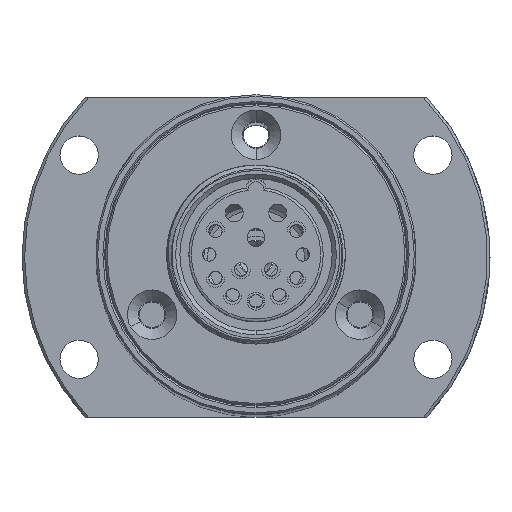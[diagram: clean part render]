
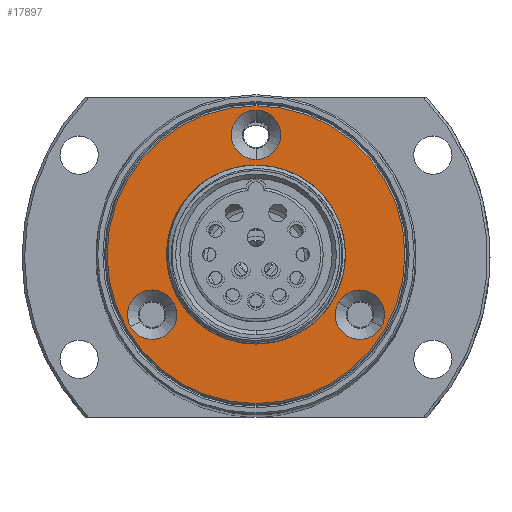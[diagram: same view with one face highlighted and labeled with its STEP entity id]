
A CAD part, top view. The second image highlights one B-rep face of the part: STEP entity #17897.
In plain terms, the highlighted planar face has unit normal (0, 0, 1).
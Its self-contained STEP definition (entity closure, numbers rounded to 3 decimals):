
#59 = CARTESIAN_POINT ( 'NONE',  ( 0., -10.5, 154. ) ) ;
#250 = VERTEX_POINT ( 'NONE', #19405 ) ;
#394 = DIRECTION ( 'NONE',  ( 0., 0., 1. ) ) ;
#397 = CIRCLE ( 'NONE', #4097, 10.5 ) ;
#550 = EDGE_CURVE ( 'NONE', #11865, #5777, #11360, .T. ) ;
#753 = CIRCLE ( 'NONE', #3111, 2.9 ) ;
#971 = EDGE_LOOP ( 'NONE', ( #17719, #9461 ) ) ;
#990 = CARTESIAN_POINT ( 'NONE',  ( 0., 0., 154. ) ) ;
#1075 = DIRECTION ( 'NONE',  ( 0., -1., 0. ) ) ;
#1258 = CIRCLE ( 'NONE', #4970, 2.9 ) ;
#1330 = VERTEX_POINT ( 'NONE', #59 ) ;
#1877 = DIRECTION ( 'NONE',  ( 0., 0., 1. ) ) ;
#1965 = VERTEX_POINT ( 'NONE', #16304 ) ;
#2134 = ORIENTED_EDGE ( 'NONE', *, *, #14242, .F. ) ;
#2211 = AXIS2_PLACEMENT_3D ( 'NONE', #2530, #8980, #18662 ) ;
#2379 = DIRECTION ( 'NONE',  ( 0., -1., 0. ) ) ;
#2412 = ORIENTED_EDGE ( 'NONE', *, *, #6376, .F. ) ;
#2449 = VERTEX_POINT ( 'NONE', #8069 ) ;
#2530 = CARTESIAN_POINT ( 'NONE',  ( 12.211, -7.05, 154. ) ) ;
#2567 = AXIS2_PLACEMENT_3D ( 'NONE', #8965, #14010, #4622 ) ;
#2580 = VERTEX_POINT ( 'NONE', #15114 ) ;
#2656 = PLANE ( 'NONE',  #13974 ) ;
#2947 = ORIENTED_EDGE ( 'NONE', *, *, #11214, .F. ) ;
#3111 = AXIS2_PLACEMENT_3D ( 'NONE', #19623, #16960, #5204 ) ;
#3183 = CARTESIAN_POINT ( 'NONE',  ( 0., 14.1, 154. ) ) ;
#3207 = VERTEX_POINT ( 'NONE', #11236 ) ;
#3408 = CIRCLE ( 'NONE', #19213, 2.9 ) ;
#3492 = DIRECTION ( 'NONE',  ( 0., 0., 1. ) ) ;
#3902 = EDGE_CURVE ( 'NONE', #5777, #11865, #1258, .T. ) ;
#4039 = CARTESIAN_POINT ( 'NONE',  ( 0., 0., 154. ) ) ;
#4097 = AXIS2_PLACEMENT_3D ( 'NONE', #14223, #10054, #7941 ) ;
#4622 = DIRECTION ( 'NONE',  ( 0., 1., 0. ) ) ;
#4748 = CIRCLE ( 'NONE', #16538, 2.9 ) ;
#4841 = EDGE_LOOP ( 'NONE', ( #5252, #2947 ) ) ;
#4939 = CARTESIAN_POINT ( 'NONE',  ( -12.211, -7.05, 154. ) ) ;
#4970 = AXIS2_PLACEMENT_3D ( 'NONE', #4978, #3492, #12875 ) ;
#4978 = CARTESIAN_POINT ( 'NONE',  ( 12.211, -7.05, 154. ) ) ;
#5204 = DIRECTION ( 'NONE',  ( 0.866, 0.5, 0. ) ) ;
#5252 = ORIENTED_EDGE ( 'NONE', *, *, #8128, .F. ) ;
#5777 = VERTEX_POINT ( 'NONE', #14597 ) ;
#5836 = AXIS2_PLACEMENT_3D ( 'NONE', #8516, #10412, #2379 ) ;
#5904 = ORIENTED_EDGE ( 'NONE', *, *, #3902, .F. ) ;
#6155 = CIRCLE ( 'NONE', #17932, 2.9 ) ;
#6376 = EDGE_CURVE ( 'NONE', #3207, #250, #6155, .T. ) ;
#6567 = DIRECTION ( 'NONE',  ( 0., 1., 0. ) ) ;
#7216 = FACE_BOUND ( 'NONE', #11268, .T. ) ;
#7672 = ORIENTED_EDGE ( 'NONE', *, *, #12066, .F. ) ;
#7941 = DIRECTION ( 'NONE',  ( 0., -1., 0. ) ) ;
#8069 = CARTESIAN_POINT ( 'NONE',  ( 0., 10.5, 154. ) ) ;
#8127 = EDGE_CURVE ( 'NONE', #250, #3207, #4748, .T. ) ;
#8128 = EDGE_CURVE ( 'NONE', #1965, #10068, #3408, .T. ) ;
#8516 = CARTESIAN_POINT ( 'NONE',  ( 0., 0., 154. ) ) ;
#8583 = VERTEX_POINT ( 'NONE', #15225 ) ;
#8701 = FACE_BOUND ( 'NONE', #19800, .T. ) ;
#8721 = EDGE_CURVE ( 'NONE', #8583, #2580, #14209, .T. ) ;
#8965 = CARTESIAN_POINT ( 'NONE',  ( 0., 0., 154. ) ) ;
#8980 = DIRECTION ( 'NONE',  ( 0., 0., 1. ) ) ;
#9102 = DIRECTION ( 'NONE',  ( 0., 0., 1. ) ) ;
#9461 = ORIENTED_EDGE ( 'NONE', *, *, #8721, .F. ) ;
#9516 = DIRECTION ( 'NONE',  ( 0., 0., 1. ) ) ;
#9760 = CARTESIAN_POINT ( 'NONE',  ( 9.699, -5.6, 154. ) ) ;
#10054 = DIRECTION ( 'NONE',  ( 0., 0., 1. ) ) ;
#10068 = VERTEX_POINT ( 'NONE', #14857 ) ;
#10412 = DIRECTION ( 'NONE',  ( 0., 0., -1. ) ) ;
#11214 = EDGE_CURVE ( 'NONE', #10068, #1965, #753, .T. ) ;
#11236 = CARTESIAN_POINT ( 'NONE',  ( 0., 17., 154. ) ) ;
#11268 = EDGE_LOOP ( 'NONE', ( #5904, #11445 ) ) ;
#11360 = CIRCLE ( 'NONE', #2211, 2.9 ) ;
#11368 = DIRECTION ( 'NONE',  ( -0.866, -0.5, 0. ) ) ;
#11445 = ORIENTED_EDGE ( 'NONE', *, *, #550, .F. ) ;
#11469 = DIRECTION ( 'NONE',  ( 0., -1., 0. ) ) ;
#11865 = VERTEX_POINT ( 'NONE', #9760 ) ;
#12060 = FACE_BOUND ( 'NONE', #4841, .T. ) ;
#12066 = EDGE_CURVE ( 'NONE', #1330, #2449, #397, .T. ) ;
#12109 = ORIENTED_EDGE ( 'NONE', *, *, #8127, .F. ) ;
#12375 = EDGE_LOOP ( 'NONE', ( #2412, #12109 ) ) ;
#12875 = DIRECTION ( 'NONE',  ( 0.866, -0.5, 0. ) ) ;
#13641 = FACE_BOUND ( 'NONE', #12375, .T. ) ;
#13974 = AXIS2_PLACEMENT_3D ( 'NONE', #4039, #9102, #1075 ) ;
#14010 = DIRECTION ( 'NONE',  ( 0., 0., 1. ) ) ;
#14159 = DIRECTION ( 'NONE',  ( 0., 1., 0. ) ) ;
#14209 = CIRCLE ( 'NONE', #19256, 17.5 ) ;
#14223 = CARTESIAN_POINT ( 'NONE',  ( 0., 0., 154. ) ) ;
#14242 = EDGE_CURVE ( 'NONE', #2449, #1330, #16731, .T. ) ;
#14597 = CARTESIAN_POINT ( 'NONE',  ( 14.722, -8.5, 154. ) ) ;
#14857 = CARTESIAN_POINT ( 'NONE',  ( -9.699, -5.6, 154. ) ) ;
#15114 = CARTESIAN_POINT ( 'NONE',  ( 0., -17.5, 154. ) ) ;
#15225 = CARTESIAN_POINT ( 'NONE',  ( 0., 17.5, 154. ) ) ;
#15437 = DIRECTION ( 'NONE',  ( 0., 0., -1. ) ) ;
#16304 = CARTESIAN_POINT ( 'NONE',  ( -14.722, -8.5, 154. ) ) ;
#16538 = AXIS2_PLACEMENT_3D ( 'NONE', #19475, #1877, #11469 ) ;
#16608 = CIRCLE ( 'NONE', #5836, 17.5 ) ;
#16731 = CIRCLE ( 'NONE', #2567, 10.5 ) ;
#16960 = DIRECTION ( 'NONE',  ( 0., 0., 1. ) ) ;
#17719 = ORIENTED_EDGE ( 'NONE', *, *, #19476, .F. ) ;
#17897 = ADVANCED_FACE ( 'NONE', ( #8701, #7216, #12060, #13641, #20056 ), #2656, .T. ) ;
#17932 = AXIS2_PLACEMENT_3D ( 'NONE', #3183, #9516, #6567 ) ;
#18662 = DIRECTION ( 'NONE',  ( -0.866, 0.5, 0. ) ) ;
#19213 = AXIS2_PLACEMENT_3D ( 'NONE', #4939, #394, #11368 ) ;
#19256 = AXIS2_PLACEMENT_3D ( 'NONE', #990, #15437, #14159 ) ;
#19405 = CARTESIAN_POINT ( 'NONE',  ( 0., 11.2, 154. ) ) ;
#19475 = CARTESIAN_POINT ( 'NONE',  ( 0., 14.1, 154. ) ) ;
#19476 = EDGE_CURVE ( 'NONE', #2580, #8583, #16608, .T. ) ;
#19623 = CARTESIAN_POINT ( 'NONE',  ( -12.211, -7.05, 154. ) ) ;
#19800 = EDGE_LOOP ( 'NONE', ( #2134, #7672 ) ) ;
#20056 = FACE_OUTER_BOUND ( 'NONE', #971, .T. ) ;
